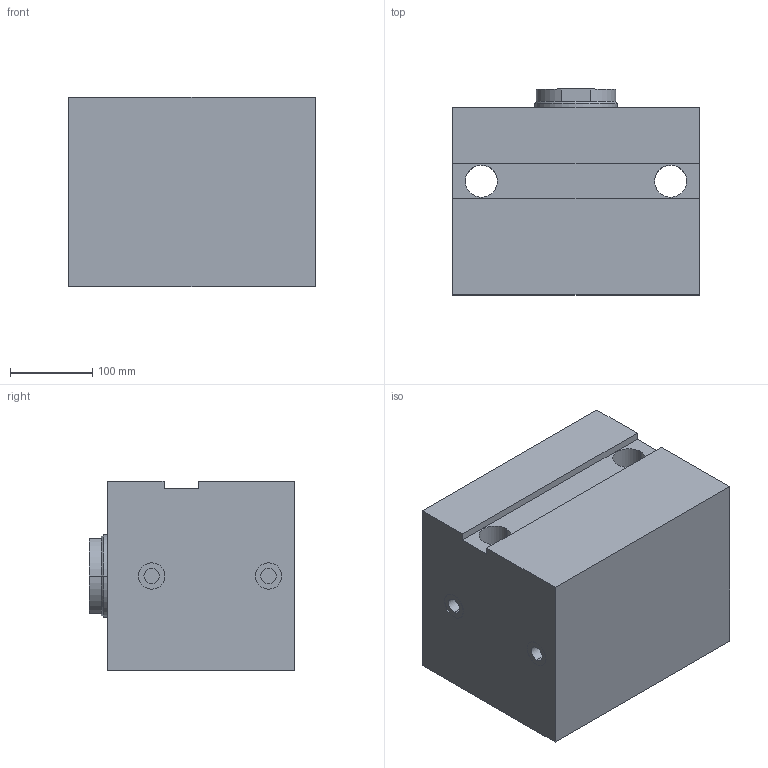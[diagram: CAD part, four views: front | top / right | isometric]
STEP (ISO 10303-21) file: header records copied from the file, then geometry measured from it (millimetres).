
FILE_DESCRIPTION (( 'STEP AP203' ), '1' );
FILE_NAME ('GERMA_Blockzylinder_602-160-100.STEP', '2015-10-11T16:39:09', ( '' ), ( '' ), 'SwSTEP 2.0', 'SolidWorks 2015', '' );
FILE_SCHEMA (( 'CONFIG_CONTROL_DESIGN' ));
Length unit declared in the file: millimetre
Products named in the file (3): GERMA_Blockzylinder_602-160-100; GH-600-160_GH-602-160-100; Kolben 60x-160_Kolben DU.160-Hub100-IG
Assembly tree (2 placements, depth 2):
  GERMA_Blockzylinder_602-160-100
    GH-600-160_GH-602-160-100
    Kolben 60x-160_Kolben DU.160-Hub100-IG
Bounding box: 300 x 250 x 230 mm (x, y, z)
Volume: 13817093.1 mm3; surface area: 679866 mm2
Topology: 2 solids, 2 shells, 73 faces, 160 edges, 98 vertices
Faces by surface type: cylinder 33, plane 26, cone 14
Entity records: 2286 total; most frequent: DIRECTION 387, CARTESIAN_POINT 330, ORIENTED_EDGE 308, AXIS2_PLACEMENT_3D 155, EDGE_CURVE 154, VERTEX_POINT 98, EDGE_LOOP 90, LINE 77
